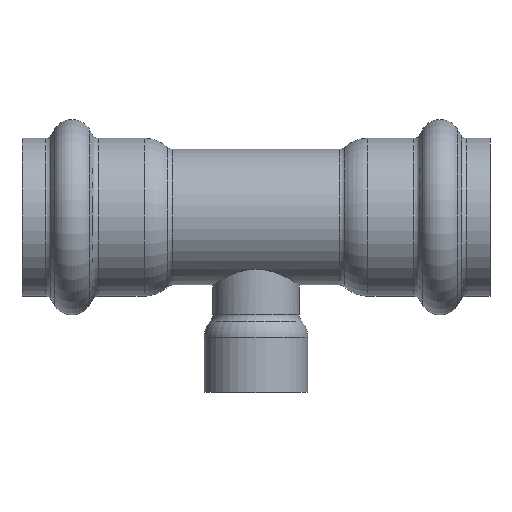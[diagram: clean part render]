
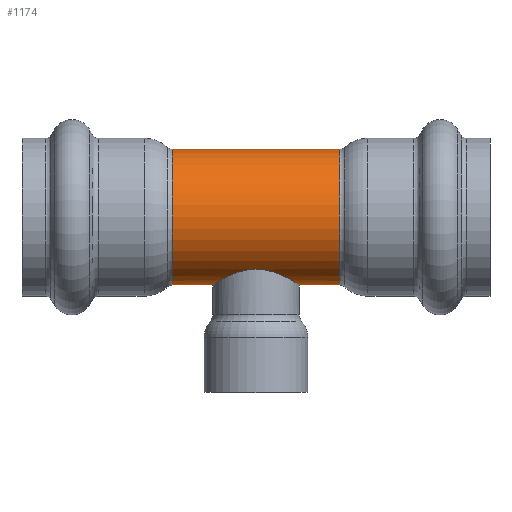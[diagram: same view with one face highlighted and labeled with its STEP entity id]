
A CAD part, top view. The second image highlights one B-rep face of the part: STEP entity #1174.
In plain terms, the highlighted cylindrical face has radius 16.701 mm (diameter 33.401 mm), a full revolution.
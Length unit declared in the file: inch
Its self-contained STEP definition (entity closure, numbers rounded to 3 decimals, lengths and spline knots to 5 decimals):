
#112=FACE_OUTER_BOUND('',#163,.T.);
#163=EDGE_LOOP('',(#924,#925,#926,#927,#928,#929,#930,#931,#932,#933,#934,
#935,#936,#937));
#270=CIRCLE('',#1329,0.6575);
#271=CIRCLE('',#1330,0.6575);
#272=CIRCLE('',#1331,0.6575);
#273=CIRCLE('',#1333,0.6575);
#274=CIRCLE('',#1334,0.6575);
#275=CIRCLE('',#1335,0.6575);
#350=LINE('',#2192,#374);
#351=LINE('',#2193,#375);
#374=VECTOR('',#1686,0.6575);
#375=VECTOR('',#1687,0.6575);
#384=B_SPLINE_CURVE_WITH_KNOTS('',3,(#1886,#1887,#1888,#1889,#1890,#1891,
#1892,#1893,#1894,#1895,#1896,#1897),.UNSPECIFIED.,.F.,.F.,(4,2,2,2,2,4),
(0.,0.20931,0.41862,0.83724,1.25217,
1.6671),.UNSPECIFIED.);
#385=B_SPLINE_CURVE_WITH_KNOTS('',3,(#1899,#1900,#1901,#1902,#1903,#1904,
#1905,#1906,#1907,#1908,#1909,#1910),.UNSPECIFIED.,.F.,.F.,(4,2,2,2,2,4),
(5.0013,5.41623,5.83115,6.24978,6.45909,
6.6684),.UNSPECIFIED.);
#386=B_SPLINE_CURVE_WITH_KNOTS('',3,(#1912,#1913,#1914,#1915,#1916,#1917,
#1918,#1919,#1920,#1921,#1922,#1923),.UNSPECIFIED.,.F.,.F.,(4,2,2,2,2,4),
(3.3342,3.54351,3.75282,4.17144,4.58637,
5.0013),.UNSPECIFIED.);
#387=B_SPLINE_CURVE_WITH_KNOTS('',3,(#1929,#1930,#1931,#1932,#1933,#1934,
#1935,#1936,#1937,#1938,#1939,#1940),.UNSPECIFIED.,.F.,.F.,(4,2,2,2,2,4),
(1.6671,2.08203,2.49695,2.91558,3.12489,
3.3342),.UNSPECIFIED.);
#392=VERTEX_POINT('',#1884);
#393=VERTEX_POINT('',#1885);
#394=VERTEX_POINT('',#1898);
#395=VERTEX_POINT('',#1911);
#472=VERTEX_POINT('',#2179);
#473=VERTEX_POINT('',#2181);
#474=VERTEX_POINT('',#2183);
#475=VERTEX_POINT('',#2187);
#476=VERTEX_POINT('',#2188);
#477=VERTEX_POINT('',#2190);
#528=EDGE_CURVE('',#392,#393,#384,.T.);
#529=EDGE_CURVE('',#394,#392,#385,.T.);
#530=EDGE_CURVE('',#395,#394,#386,.T.);
#534=EDGE_CURVE('',#393,#395,#387,.T.);
#636=EDGE_CURVE('',#473,#472,#270,.T.);
#637=EDGE_CURVE('',#474,#473,#271,.T.);
#638=EDGE_CURVE('',#472,#474,#272,.T.);
#639=EDGE_CURVE('',#475,#476,#273,.T.);
#640=EDGE_CURVE('',#477,#475,#274,.T.);
#641=EDGE_CURVE('',#477,#393,#350,.T.);
#642=EDGE_CURVE('',#394,#474,#351,.T.);
#643=EDGE_CURVE('',#476,#477,#275,.T.);
#924=ORIENTED_EDGE('',*,*,#639,.F.);
#925=ORIENTED_EDGE('',*,*,#640,.F.);
#926=ORIENTED_EDGE('',*,*,#641,.T.);
#927=ORIENTED_EDGE('',*,*,#534,.T.);
#928=ORIENTED_EDGE('',*,*,#530,.T.);
#929=ORIENTED_EDGE('',*,*,#642,.T.);
#930=ORIENTED_EDGE('',*,*,#637,.T.);
#931=ORIENTED_EDGE('',*,*,#636,.T.);
#932=ORIENTED_EDGE('',*,*,#638,.T.);
#933=ORIENTED_EDGE('',*,*,#642,.F.);
#934=ORIENTED_EDGE('',*,*,#529,.T.);
#935=ORIENTED_EDGE('',*,*,#528,.T.);
#936=ORIENTED_EDGE('',*,*,#641,.F.);
#937=ORIENTED_EDGE('',*,*,#643,.F.);
#1089=CYLINDRICAL_SURFACE('',#1332,0.6575);
#1174=ADVANCED_FACE('',(#112),#1089,.T.);
#1329=AXIS2_PLACEMENT_3D('',#2182,#1674,#1675);
#1330=AXIS2_PLACEMENT_3D('',#2184,#1676,#1677);
#1331=AXIS2_PLACEMENT_3D('',#2185,#1678,#1679);
#1332=AXIS2_PLACEMENT_3D('',#2186,#1680,#1681);
#1333=AXIS2_PLACEMENT_3D('',#2189,#1682,#1683);
#1334=AXIS2_PLACEMENT_3D('',#2191,#1684,#1685);
#1335=AXIS2_PLACEMENT_3D('',#2194,#1688,#1689);
#1674=DIRECTION('center_axis',(1.,0.,0.));
#1675=DIRECTION('ref_axis',(0.,1.,0.));
#1676=DIRECTION('center_axis',(1.,0.,0.));
#1677=DIRECTION('ref_axis',(0.,1.,0.));
#1678=DIRECTION('center_axis',(1.,0.,0.));
#1679=DIRECTION('ref_axis',(0.,1.,0.));
#1680=DIRECTION('center_axis',(1.,0.,0.));
#1681=DIRECTION('ref_axis',(0.,1.,0.));
#1682=DIRECTION('center_axis',(1.,0.,0.));
#1683=DIRECTION('ref_axis',(0.,1.,0.));
#1684=DIRECTION('center_axis',(1.,0.,0.));
#1685=DIRECTION('ref_axis',(0.,1.,0.));
#1686=DIRECTION('',(-1.,0.,0.));
#1687=DIRECTION('',(-1.,0.,0.));
#1688=DIRECTION('center_axis',(1.,0.,0.));
#1689=DIRECTION('ref_axis',(0.,1.,0.));
#1884=CARTESIAN_POINT('',(0.,-0.50587,0.42));
#1885=CARTESIAN_POINT('',(0.42,-0.6575,0.));
#1886=CARTESIAN_POINT('Ctrl Pts',(0.,-0.50587,
0.42));
#1887=CARTESIAN_POINT('Ctrl Pts',(0.02747,-0.50587,
0.42));
#1888=CARTESIAN_POINT('Ctrl Pts',(0.05544,-0.50818,
0.41727));
#1889=CARTESIAN_POINT('Ctrl Pts',(0.11038,-0.51706,
0.4062));
#1890=CARTESIAN_POINT('Ctrl Pts',(0.13736,-0.52362,
0.39788));
#1891=CARTESIAN_POINT('Ctrl Pts',(0.21433,-0.54723,
0.36546));
#1892=CARTESIAN_POINT('Ctrl Pts',(0.26041,-0.56809,
0.33356));
#1893=CARTESIAN_POINT('Ctrl Pts',(0.33324,-0.60496,
0.26073));
#1894=CARTESIAN_POINT('Ctrl Pts',(0.36536,-0.62378,
0.21457));
#1895=CARTESIAN_POINT('Ctrl Pts',(0.40878,-0.65016,0.11147));
#1896=CARTESIAN_POINT('Ctrl Pts',(0.42,-0.6575,0.05445));
#1897=CARTESIAN_POINT('Ctrl Pts',(0.42,-0.6575,0.));
#1898=CARTESIAN_POINT('',(-0.42,-0.6575,0.));
#1899=CARTESIAN_POINT('Ctrl Pts',(-0.42,-0.6575,0.));
#1900=CARTESIAN_POINT('Ctrl Pts',(-0.42,-0.6575,0.05445));
#1901=CARTESIAN_POINT('Ctrl Pts',(-0.40878,-0.65016,
0.11147));
#1902=CARTESIAN_POINT('Ctrl Pts',(-0.36536,-0.62378,
0.21457));
#1903=CARTESIAN_POINT('Ctrl Pts',(-0.33324,-0.60496,
0.26073));
#1904=CARTESIAN_POINT('Ctrl Pts',(-0.26041,-0.56809,
0.33356));
#1905=CARTESIAN_POINT('Ctrl Pts',(-0.21433,-0.54723,
0.36546));
#1906=CARTESIAN_POINT('Ctrl Pts',(-0.13736,-0.52362,
0.39788));
#1907=CARTESIAN_POINT('Ctrl Pts',(-0.11038,-0.51706,
0.4062));
#1908=CARTESIAN_POINT('Ctrl Pts',(-0.05544,-0.50818,
0.41727));
#1909=CARTESIAN_POINT('Ctrl Pts',(-0.02747,-0.50587,
0.42));
#1910=CARTESIAN_POINT('Ctrl Pts',(0.,-0.50587,
0.42));
#1911=CARTESIAN_POINT('',(0.,-0.50587,-0.42));
#1912=CARTESIAN_POINT('Ctrl Pts',(0.,-0.50587,-0.42));
#1913=CARTESIAN_POINT('Ctrl Pts',(-0.02747,-0.50587,
-0.42));
#1914=CARTESIAN_POINT('Ctrl Pts',(-0.05544,-0.50818,
-0.41727));
#1915=CARTESIAN_POINT('Ctrl Pts',(-0.11038,-0.51706,
-0.4062));
#1916=CARTESIAN_POINT('Ctrl Pts',(-0.13736,-0.52362,
-0.39788));
#1917=CARTESIAN_POINT('Ctrl Pts',(-0.21433,-0.54723,
-0.36546));
#1918=CARTESIAN_POINT('Ctrl Pts',(-0.26041,-0.56809,
-0.33356));
#1919=CARTESIAN_POINT('Ctrl Pts',(-0.33324,-0.60496,
-0.26073));
#1920=CARTESIAN_POINT('Ctrl Pts',(-0.36536,-0.62378,
-0.21457));
#1921=CARTESIAN_POINT('Ctrl Pts',(-0.40878,-0.65016,
-0.11147));
#1922=CARTESIAN_POINT('Ctrl Pts',(-0.42,-0.6575,-0.05445));
#1923=CARTESIAN_POINT('Ctrl Pts',(-0.42,-0.6575,0.));
#1929=CARTESIAN_POINT('Ctrl Pts',(0.42,-0.6575,0.));
#1930=CARTESIAN_POINT('Ctrl Pts',(0.42,-0.6575,-0.05445));
#1931=CARTESIAN_POINT('Ctrl Pts',(0.40878,-0.65016,-0.11147));
#1932=CARTESIAN_POINT('Ctrl Pts',(0.36536,-0.62378,
-0.21457));
#1933=CARTESIAN_POINT('Ctrl Pts',(0.33324,-0.60496,
-0.26073));
#1934=CARTESIAN_POINT('Ctrl Pts',(0.26041,-0.56809,
-0.33356));
#1935=CARTESIAN_POINT('Ctrl Pts',(0.21433,-0.54723,
-0.36546));
#1936=CARTESIAN_POINT('Ctrl Pts',(0.13736,-0.52362,
-0.39788));
#1937=CARTESIAN_POINT('Ctrl Pts',(0.11038,-0.51706,
-0.4062));
#1938=CARTESIAN_POINT('Ctrl Pts',(0.05544,-0.50818,
-0.41727));
#1939=CARTESIAN_POINT('Ctrl Pts',(0.02747,-0.50587,
-0.42));
#1940=CARTESIAN_POINT('Ctrl Pts',(0.,-0.50587,
-0.42));
#2179=CARTESIAN_POINT('',(-0.81135,0.,0.6575));
#2181=CARTESIAN_POINT('',(-0.81135,0.6575,0.));
#2182=CARTESIAN_POINT('Origin',(-0.81135,0.,0.));
#2183=CARTESIAN_POINT('',(-0.81135,-0.6575,0.));
#2184=CARTESIAN_POINT('Origin',(-0.81135,0.,0.));
#2185=CARTESIAN_POINT('Origin',(-0.81135,0.,0.));
#2186=CARTESIAN_POINT('Origin',(0.40568,0.,0.));
#2187=CARTESIAN_POINT('',(0.81135,0.6575,0.));
#2188=CARTESIAN_POINT('',(0.81135,0.,0.6575));
#2189=CARTESIAN_POINT('Origin',(0.81135,0.,0.));
#2190=CARTESIAN_POINT('',(0.81135,-0.6575,0.));
#2191=CARTESIAN_POINT('Origin',(0.81135,0.,0.));
#2192=CARTESIAN_POINT('',(0.40568,-0.6575,0.));
#2193=CARTESIAN_POINT('',(0.40568,-0.6575,0.));
#2194=CARTESIAN_POINT('Origin',(0.81135,0.,0.));
